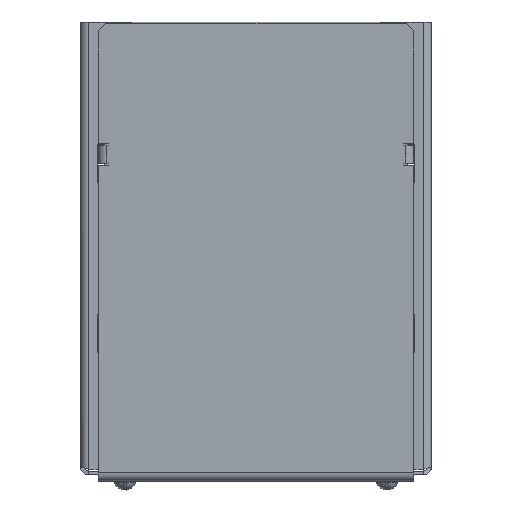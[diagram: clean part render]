
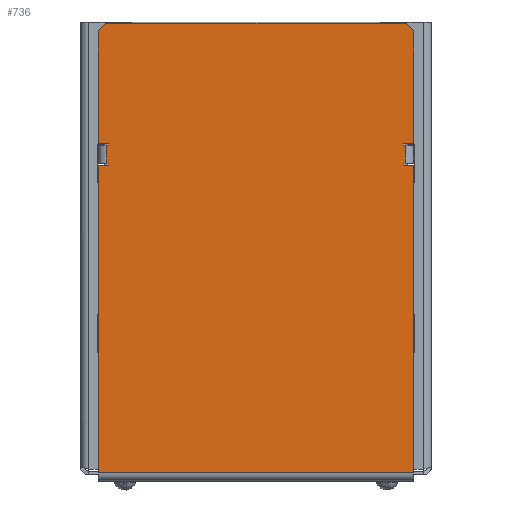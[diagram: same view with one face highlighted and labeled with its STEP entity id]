
A CAD part, left-side view. The second image highlights one B-rep face of the part: STEP entity #736.
In plain terms, the highlighted planar face has unit normal (-1, 0, 0).
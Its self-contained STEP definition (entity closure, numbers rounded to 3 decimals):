
#736=ADVANCED_FACE('',(#5101),#5103,.T.);
#5101=FACE_BOUND('',#5102,.T.);
#5102=EDGE_LOOP('',(#9817,#9818,#9819,#9820,#9821,#9822,#9823,#9824,#9825,#9826,
#9827,#9828,#9829,#9830,#9831,#9832,#9833,#9834,#9835,#9836,#9837,#9838));
#5103=PLANE('',#5104);
#5104=AXIS2_PLACEMENT_3D('',#5105,#5106,#5107);
#5105=CARTESIAN_POINT('',(-115.,0.,-91.5));
#5106=DIRECTION('',(-1.,0.,0.));
#5107=DIRECTION('',(0.,0.,1.));
#9817=ORIENTED_EDGE('',*,*,#12079,.T.);
#9818=ORIENTED_EDGE('',*,*,#12080,.T.);
#9819=ORIENTED_EDGE('',*,*,#12081,.T.);
#9820=ORIENTED_EDGE('',*,*,#12082,.T.);
#9821=ORIENTED_EDGE('',*,*,#12083,.T.);
#9822=ORIENTED_EDGE('',*,*,#12084,.T.);
#9823=ORIENTED_EDGE('',*,*,#12085,.T.);
#9824=ORIENTED_EDGE('',*,*,#12086,.T.);
#9825=ORIENTED_EDGE('',*,*,#12087,.T.);
#9826=ORIENTED_EDGE('',*,*,#12088,.T.);
#9827=ORIENTED_EDGE('',*,*,#12089,.T.);
#9828=ORIENTED_EDGE('',*,*,#12090,.T.);
#9829=ORIENTED_EDGE('',*,*,#12091,.T.);
#9830=ORIENTED_EDGE('',*,*,#12092,.T.);
#9831=ORIENTED_EDGE('',*,*,#12093,.T.);
#9832=ORIENTED_EDGE('',*,*,#12094,.T.);
#9833=ORIENTED_EDGE('',*,*,#12095,.T.);
#9834=ORIENTED_EDGE('',*,*,#12096,.T.);
#9835=ORIENTED_EDGE('',*,*,#12097,.T.);
#9836=ORIENTED_EDGE('',*,*,#12098,.T.);
#9837=ORIENTED_EDGE('',*,*,#12099,.T.);
#9838=ORIENTED_EDGE('',*,*,#12100,.T.);
#12079=EDGE_CURVE('',#14859,#14860,#14861,.T.);
#12080=EDGE_CURVE('',#14860,#14862,#14863,.T.);
#12081=EDGE_CURVE('',#14862,#14864,#14865,.T.);
#12082=EDGE_CURVE('',#14864,#14866,#14867,.T.);
#12083=EDGE_CURVE('',#14866,#14868,#14869,.T.);
#12084=EDGE_CURVE('',#14868,#14870,#14871,.T.);
#12085=EDGE_CURVE('',#14870,#14872,#14873,.T.);
#12086=EDGE_CURVE('',#14872,#14874,#14875,.T.);
#12087=EDGE_CURVE('',#14874,#14876,#14877,.T.);
#12088=EDGE_CURVE('',#14876,#14878,#14879,.T.);
#12089=EDGE_CURVE('',#14878,#14880,#14881,.T.);
#12090=EDGE_CURVE('',#14880,#14882,#14883,.T.);
#12091=EDGE_CURVE('',#14882,#14884,#14885,.T.);
#12092=EDGE_CURVE('',#14884,#14886,#14887,.T.);
#12093=EDGE_CURVE('',#14886,#14888,#14889,.T.);
#12094=EDGE_CURVE('',#14888,#14890,#14891,.T.);
#12095=EDGE_CURVE('',#14890,#14892,#14893,.T.);
#12096=EDGE_CURVE('',#14892,#14894,#14895,.T.);
#12097=EDGE_CURVE('',#14894,#14896,#14897,.T.);
#12098=EDGE_CURVE('',#14896,#14898,#14899,.T.);
#12099=EDGE_CURVE('',#14898,#14900,#14901,.T.);
#12100=EDGE_CURVE('',#14900,#14859,#14902,.T.);
#14859=VERTEX_POINT('',#22071);
#14860=VERTEX_POINT('',#22072);
#14861=LINE('',#22073,#22074);
#14862=VERTEX_POINT('',#22076);
#14863=LINE('',#22077,#22078);
#14864=VERTEX_POINT('',#22080);
#14865=LINE('',#22081,#22082);
#14866=VERTEX_POINT('',#22084);
#14867=LINE('',#22085,#22086);
#14868=VERTEX_POINT('',#22088);
#14869=LINE('',#22089,#22090);
#14870=VERTEX_POINT('',#22092);
#14871=LINE('',#22093,#22094);
#14872=VERTEX_POINT('',#22096);
#14873=LINE('',#22097,#22098);
#14874=VERTEX_POINT('',#22100);
#14875=LINE('',#22101,#22102);
#14876=VERTEX_POINT('',#22104);
#14877=LINE('',#22105,#22106);
#14878=VERTEX_POINT('',#22108);
#14879=LINE('',#22109,#22110);
#14880=VERTEX_POINT('',#22112);
#14881=LINE('',#22113,#22114);
#14882=VERTEX_POINT('',#22116);
#14883=LINE('',#22117,#22118);
#14884=VERTEX_POINT('',#22120);
#14885=LINE('',#22121,#22122);
#14886=VERTEX_POINT('',#22124);
#14887=LINE('',#22125,#22126);
#14888=VERTEX_POINT('',#22128);
#14889=LINE('',#22129,#22130);
#14890=VERTEX_POINT('',#22132);
#14891=LINE('',#22133,#22134);
#14892=VERTEX_POINT('',#22136);
#14893=LINE('',#22137,#22138);
#14894=VERTEX_POINT('',#22140);
#14895=LINE('',#22141,#22142);
#14896=VERTEX_POINT('',#22144);
#14897=LINE('',#22145,#22146);
#14898=VERTEX_POINT('',#22148);
#14899=LINE('',#22149,#22150);
#14900=VERTEX_POINT('',#22152);
#14901=LINE('',#22153,#22154);
#14902=LINE('',#22156,#22157);
#22071=CARTESIAN_POINT('',(-115.,-59.,88.5));
#22072=CARTESIAN_POINT('',(-115.,59.,88.5));
#22073=CARTESIAN_POINT('',(-115.,-59.,88.5));
#22074=VECTOR('',#22075,1.);
#22075=DIRECTION('',(0.,1.,0.));
#22076=CARTESIAN_POINT('',(-115.,62.,85.5));
#22077=CARTESIAN_POINT('',(-115.,59.,88.5));
#22078=VECTOR('',#22079,1.);
#22079=DIRECTION('',(0.,0.707,-0.707));
#22080=CARTESIAN_POINT('',(-115.,62.,41.25));
#22081=CARTESIAN_POINT('',(-115.,62.,85.5));
#22082=VECTOR('',#22083,1.);
#22083=DIRECTION('',(0.,0.,-1.));
#22084=CARTESIAN_POINT('',(-115.,57.95,41.25));
#22085=CARTESIAN_POINT('',(-115.,62.,41.25));
#22086=VECTOR('',#22087,1.);
#22087=DIRECTION('',(0.,-1.,0.));
#22088=CARTESIAN_POINT('',(-115.,57.95,40.5));
#22089=CARTESIAN_POINT('',(-115.,57.95,41.25));
#22090=VECTOR('',#22091,1.);
#22091=DIRECTION('',(0.,0.,-1.));
#22092=CARTESIAN_POINT('',(-115.,58.7,40.5));
#22093=CARTESIAN_POINT('',(-115.,57.95,40.5));
#22094=VECTOR('',#22095,1.);
#22095=DIRECTION('',(0.,1.,0.));
#22096=CARTESIAN_POINT('',(-115.,58.7,33.5));
#22097=CARTESIAN_POINT('',(-115.,58.7,40.5));
#22098=VECTOR('',#22099,1.);
#22099=DIRECTION('',(0.,0.,-1.));
#22100=CARTESIAN_POINT('',(-115.,57.95,33.5));
#22101=CARTESIAN_POINT('',(-115.,58.7,33.5));
#22102=VECTOR('',#22103,1.);
#22103=DIRECTION('',(0.,-1.,0.));
#22104=CARTESIAN_POINT('',(-115.,57.95,32.75));
#22105=CARTESIAN_POINT('',(-115.,57.95,33.5));
#22106=VECTOR('',#22107,1.);
#22107=DIRECTION('',(0.,0.,-1.));
#22108=CARTESIAN_POINT('',(-115.,62.,32.75));
#22109=CARTESIAN_POINT('',(-115.,57.95,32.75));
#22110=VECTOR('',#22111,1.);
#22111=DIRECTION('',(0.,1.,0.));
#22112=CARTESIAN_POINT('',(-115.,62.,-88.2));
#22113=CARTESIAN_POINT('',(-115.,62.,32.75));
#22114=VECTOR('',#22115,1.);
#22115=DIRECTION('',(0.,0.,-1.));
#22116=CARTESIAN_POINT('',(-115.,-62.,-88.2));
#22117=CARTESIAN_POINT('',(-115.,62.,-88.2));
#22118=VECTOR('',#22119,1.);
#22119=DIRECTION('',(0.,-1.,0.));
#22120=CARTESIAN_POINT('',(-115.,-62.,32.75));
#22121=CARTESIAN_POINT('',(-115.,-62.,-88.2));
#22122=VECTOR('',#22123,1.);
#22123=DIRECTION('',(0.,0.,1.));
#22124=CARTESIAN_POINT('',(-115.,-57.95,32.75));
#22125=CARTESIAN_POINT('',(-115.,-62.,32.75));
#22126=VECTOR('',#22127,1.);
#22127=DIRECTION('',(0.,1.,0.));
#22128=CARTESIAN_POINT('',(-115.,-57.95,33.5));
#22129=CARTESIAN_POINT('',(-115.,-57.95,32.75));
#22130=VECTOR('',#22131,1.);
#22131=DIRECTION('',(0.,0.,1.));
#22132=CARTESIAN_POINT('',(-115.,-58.7,33.5));
#22133=CARTESIAN_POINT('',(-115.,-57.95,33.5));
#22134=VECTOR('',#22135,1.);
#22135=DIRECTION('',(0.,-1.,0.));
#22136=CARTESIAN_POINT('',(-115.,-58.7,40.5));
#22137=CARTESIAN_POINT('',(-115.,-58.7,33.5));
#22138=VECTOR('',#22139,1.);
#22139=DIRECTION('',(0.,0.,1.));
#22140=CARTESIAN_POINT('',(-115.,-57.95,40.5));
#22141=CARTESIAN_POINT('',(-115.,-58.7,40.5));
#22142=VECTOR('',#22143,1.);
#22143=DIRECTION('',(0.,1.,0.));
#22144=CARTESIAN_POINT('',(-115.,-57.95,41.25));
#22145=CARTESIAN_POINT('',(-115.,-57.95,40.5));
#22146=VECTOR('',#22147,1.);
#22147=DIRECTION('',(0.,0.,1.));
#22148=CARTESIAN_POINT('',(-115.,-62.,41.25));
#22149=CARTESIAN_POINT('',(-115.,-57.95,41.25));
#22150=VECTOR('',#22151,1.);
#22151=DIRECTION('',(0.,-1.,0.));
#22152=CARTESIAN_POINT('',(-115.,-62.,85.5));
#22153=CARTESIAN_POINT('',(-115.,-62.,41.25));
#22154=VECTOR('',#22155,1.);
#22155=DIRECTION('',(0.,0.,1.));
#22156=CARTESIAN_POINT('',(-115.,-62.,85.5));
#22157=VECTOR('',#22158,1.);
#22158=DIRECTION('',(0.,0.707,0.707));
